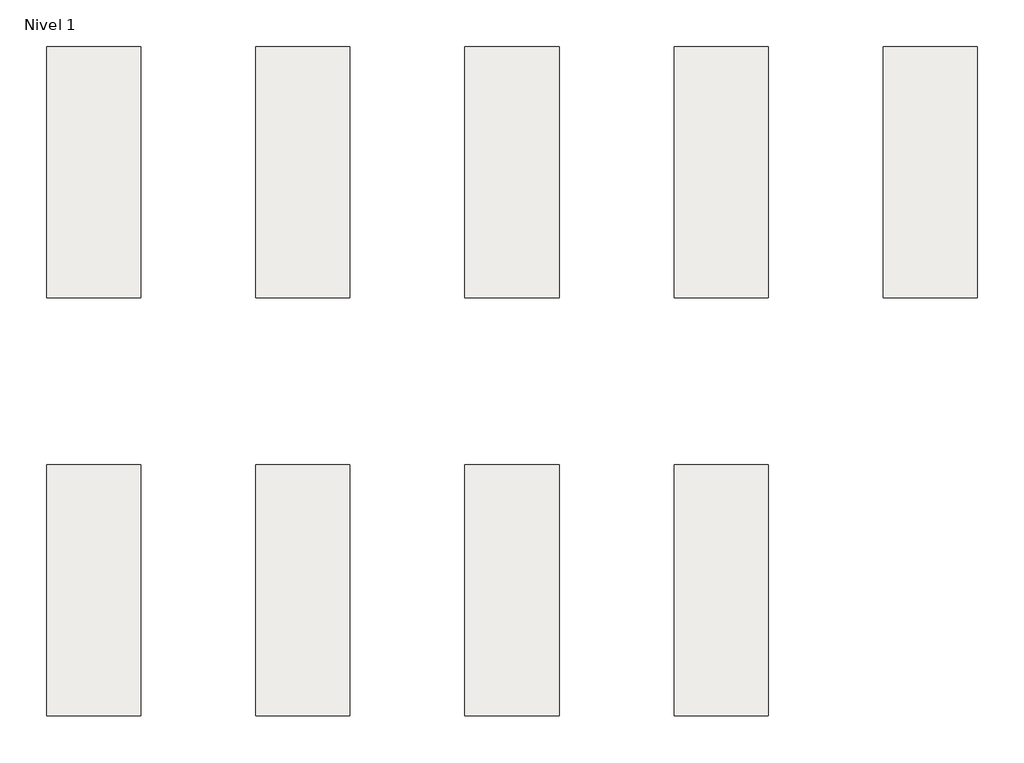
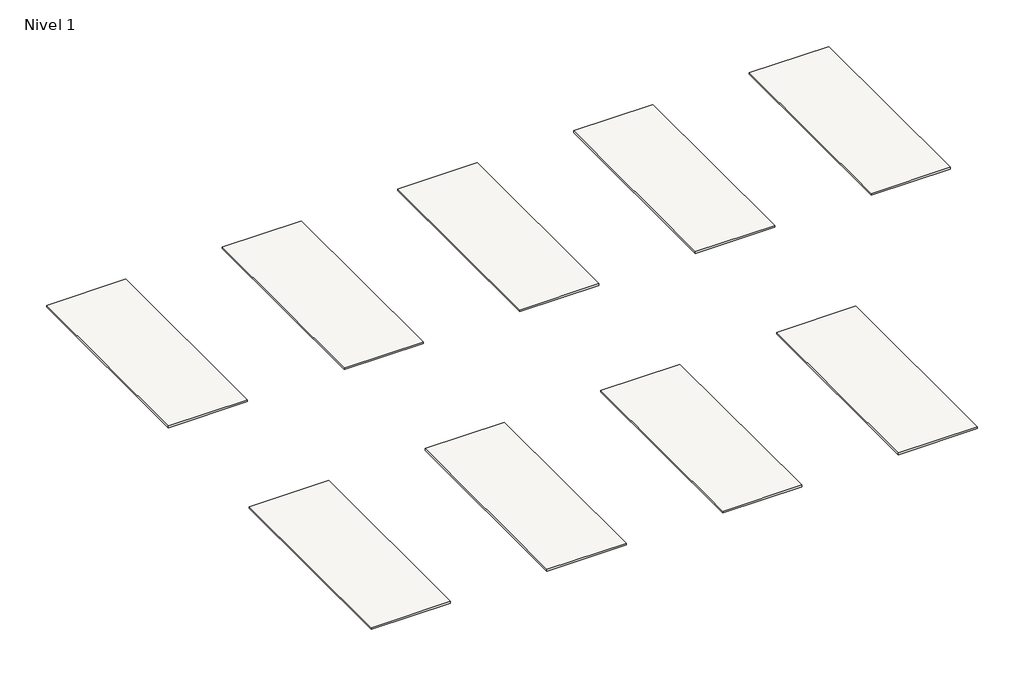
# One storey: 9 slabs.
"""IFC4 building model written with IfcOpenShell, lengths in millimetres."""

from ifc_helpers import new_model, si_unit, frame, origin, place, context, project, spatial, polyline, outline, extrude, element, save

model = new_model("IFC4")

# Units and contexts
model_context = context("Model", 3, world=origin())
ifc_project = project(units=[si_unit("LENGTHUNIT", "METRE", prefix="MILLI")], contexts=[model_context])

# Site, building, storey
site = spatial("IfcSite", under=ifc_project)
building = spatial("IfcBuilding", under=site)
storey = spatial("IfcBuildingStorey", under=building, Name="Nivel 1", Elevation=0.0)

# Slabs
placement = place(None, origin())
element("IfcSlab", 1, ObjectType="Onne Blanco", at=placement, inside=storey, context=model_context, shape_type="SweptSolid", body=[
    extrude(outline(polyline([(0.0, -800.0), (450.0, -800.0), (450.0, -2000.0), (0.0, -2000.0), (0.0, -800.0)])), frame((0.0, 0.0, -10.0), z_axis=(0.0, 0.0, 1.0), x_axis=(1.0, 0.0, 0.0)), (0.0, 0.0, 1.0), 10.0),
])
element("IfcSlab", 2, ObjectType="Spatula Perla", at=placement, inside=storey, context=model_context, shape_type="SweptSolid", body=[
    extrude(outline(polyline([(3000.0, 1200.0), (3450.0, 1200.0), (3450.0, 0.0), (3000.0, 0.0), (3000.0, 1200.0)])), frame((0.0, 0.0, -10.0), z_axis=(0.0, 0.0, 1.0), x_axis=(1.0, 0.0, 0.0)), (0.0, 0.0, 1.0), 10.0),
])
element("IfcSlab", 3, ObjectType="Onne Perla", at=placement, inside=storey, context=model_context, shape_type="SweptSolid", body=[
    extrude(outline(polyline([(1000.0, -800.0), (1450.0, -800.0), (1450.0, -2000.0), (1000.0, -2000.0), (1000.0, -800.0)])), frame((0.0, 0.0, -10.0), z_axis=(0.0, 0.0, 1.0), x_axis=(1.0, 0.0, 0.0)), (0.0, 0.0, 1.0), 10.0),
])
element("IfcSlab", 4, ObjectType="Spatula Blanco", at=placement, inside=storey, context=model_context, shape_type="SweptSolid", body=[
    extrude(outline(polyline([(4000.0, 1200.0), (4450.0, 1200.0), (4450.0, 0.0), (4000.0, 0.0), (4000.0, 1200.0)])), frame((0.0, 0.0, -10.0), z_axis=(0.0, 0.0, 1.0), x_axis=(1.0, 0.0, 0.0)), (0.0, 0.0, 1.0), 10.0),
])
element("IfcSlab", 5, ObjectType="Spatula Beige", at=placement, inside=storey, context=model_context, shape_type="SweptSolid", body=[
    extrude(outline(polyline([(3000.0, -800.0), (3450.0, -800.0), (3450.0, -2000.0), (3000.0, -2000.0), (3000.0, -800.0)])), frame((0.0, 0.0, -10.0), z_axis=(0.0, 0.0, 1.0), x_axis=(1.0, 0.0, 0.0)), (0.0, 0.0, 1.0), 10.0),
])
element("IfcSlab", 6, ObjectType="Onne Beige", at=placement, inside=storey, context=model_context, shape_type="SweptSolid", body=[
    extrude(outline(polyline([(2000.0, -800.0), (2450.0, -800.0), (2450.0, -2000.0), (2000.0, -2000.0), (2000.0, -800.0)])), frame((0.0, 0.0, -10.0), z_axis=(0.0, 0.0, 1.0), x_axis=(1.0, 0.0, 0.0)), (0.0, 0.0, 1.0), 10.0),
])
element("IfcSlab", 7, ObjectType="Texture Beige 45X120 Rec.", at=placement, inside=storey, context=model_context, shape_type="SweptSolid", body=[
    extrude(outline(polyline([(1000.0, 1200.0), (1450.0, 1200.0), (1450.0, 0.0), (1000.0, 0.0), (1000.0, 1200.0)])), frame((0.0, 0.0, -10.0), z_axis=(0.0, 0.0, 1.0), x_axis=(1.0, 0.0, 0.0)), (0.0, 0.0, 1.0), 10.0),
])
element("IfcSlab", 8, ObjectType="Texture Blanco 45X120 Rec.", at=placement, inside=storey, context=model_context, shape_type="SweptSolid", body=[
    extrude(outline(polyline([(0.0, 1200.0), (450.0, 1200.0), (450.0, 0.0), (0.0, 0.0), (0.0, 1200.0)])), frame((0.0, 0.0, -10.0), z_axis=(0.0, 0.0, 1.0), x_axis=(1.0, 0.0, 0.0)), (0.0, 0.0, 1.0), 10.0),
])
element("IfcSlab", 9, ObjectType="Texture Perla 45X120 Rec.", at=placement, inside=storey, context=model_context, shape_type="SweptSolid", body=[
    extrude(outline(polyline([(2000.0, 1200.0), (2450.0, 1200.0), (2450.0, 0.0), (2000.0, 0.0), (2000.0, 1200.0)])), frame((0.0, 0.0, -10.0), z_axis=(0.0, 0.0, 1.0), x_axis=(1.0, 0.0, 0.0)), (0.0, 0.0, 1.0), 10.0),
])

save(model, "model.ifc")
